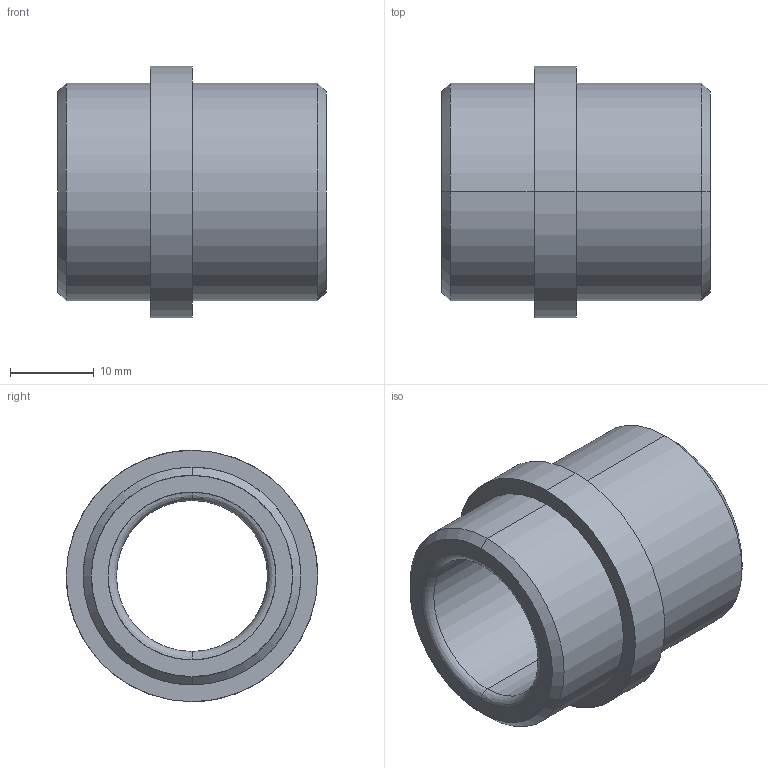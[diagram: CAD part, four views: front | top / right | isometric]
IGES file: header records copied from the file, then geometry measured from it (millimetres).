
Start section: START RECORD GO HERE.
Global section: file name: 354-18X32.igs; native system: DASSAULT SYSTEMES CATIA V5 R20 - www.3ds.com; preprocessor: CATIA Version 5 Release 20 ; author: Utente; organization: NB04-ASUS; date: 20210421.104747; units: millimetre
Bounding box: 32 x 30 x 30 mm (x, y, z)
Surface area: 5245 mm2 (no closed solid volume)
Topology: 0 solids, 0 shells, 20 faces, 128 edges, 128 vertices
Faces by surface type: revolution 16, plane 4
